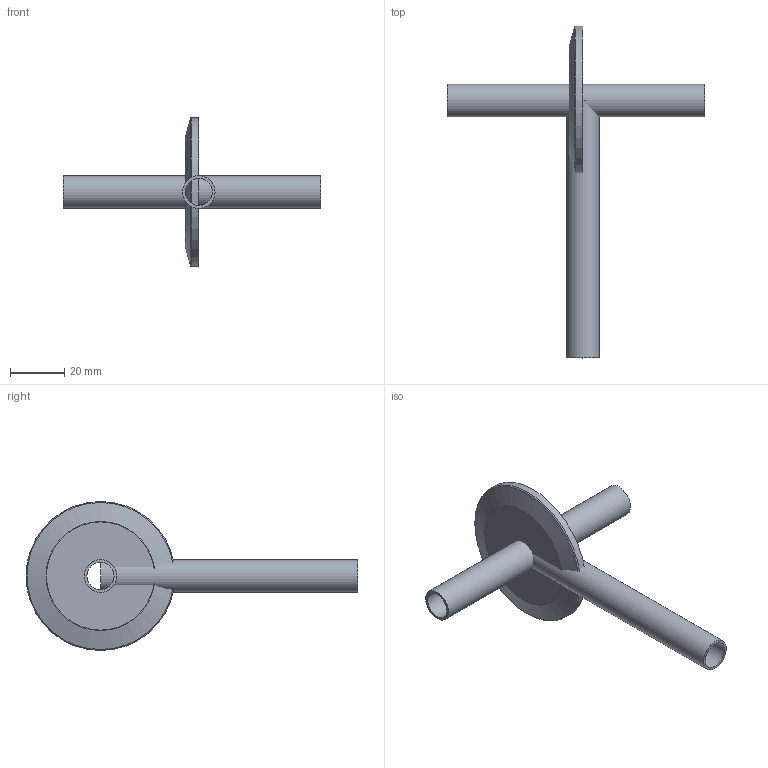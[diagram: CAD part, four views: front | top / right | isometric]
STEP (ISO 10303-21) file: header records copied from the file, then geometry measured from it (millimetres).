
FILE_DESCRIPTION( ( 'Unknown' ), '1' );
FILE_NAME( 'X:/Daten ( aktueller Bestand )/Projekte und Zeichnungen/Solid Edge/8 Adapter KF/KF Flüssigkeitsdurchführung,einfach/1866-12.stp', 'Unknown', ( 'Unknown' ), ( 'Unknown' ), 'XStep 1.0', 'Unknown', ' ' );
FILE_SCHEMA( ( 'automotive_design' ) );
Length unit declared in the file: millimetre
Products named in the file (3): Assem1; 1862-12.2; 1866-12.1
Bounding box: 95 x 122.5 x 55 mm (x, y, z)
Volume: 24011.1 mm3; surface area: 24782.2 mm2
Topology: 4 solids, 4 shells, 34 faces, 64 edges, 42 vertices
Faces by surface type: cylinder 12, plane 12, cone 6, torus 4
Full cylindrical faces by diameter (mm): 10 x2, 12 x4, 31.5 x2, 41.2 x2, 55 x2
Entity records: 508 total; most frequent: DIRECTION 74, CARTESIAN_POINT 54, AXIS2_PLACEMENT_3D 37, EDGE_LOOP 34, ORIENTED_EDGE 34, FACE_OUTER_BOUND 25, ADVANCED_FACE 17, EDGE_CURVE 17
